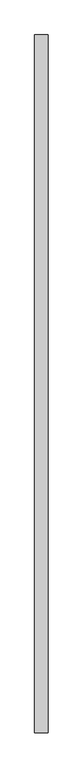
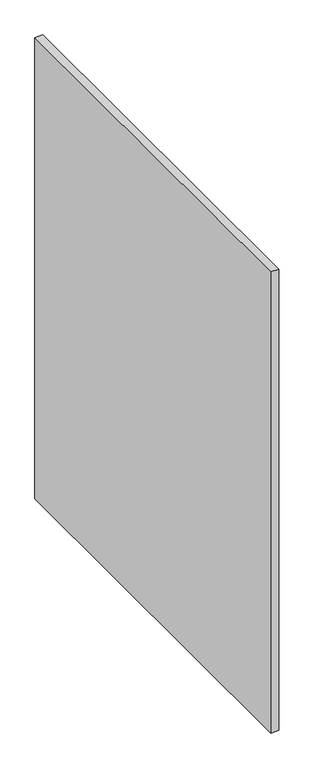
"""IFC4 building model written with IfcOpenShell, lengths in millimetres: furniture geometry, Divisoria_Lateral Fechada : Divisoria_Lateral Fechada_130x180."""

from ifc_helpers import new_model, si_unit, frame, origin, place, context, project, spatial, polyline, outline, extrude, source, transform, mapped, element, save


def furniture_a3a69743(model_context):
    return source(origin(), model_context, "Body", "SweptSolid", [
        extrude(outline(polyline([(59.7003264, 50.0), (59.7003264, -1499.1070406), (29.7003264, -1499.1070406), (29.7003264, 50.0), (59.7003264, 50.0)])), frame((0.0, 0.0, 50.0), z_axis=(0.0, 0.0, 1.0), x_axis=(1.0, 0.0, 0.0)), (0.0, 0.0, 1.0), 1850.0),
    ])


if __name__ == "__main__":
    model = new_model("IFC4")
    model_context = context("Model", 3, world=origin())
    ifc_project = project(units=[si_unit("LENGTHUNIT", "METRE", prefix="MILLI")], contexts=[model_context])
    site = spatial("IfcSite", under=ifc_project)
    building = spatial("IfcBuilding", under=site)
    placement = place(None, origin())
    furniture_shape = furniture_a3a69743(model_context)
    element("IfcFurniture", 1, ObjectType="Divisoria_Lateral Fechada : Divisoria_Lateral Fechada_130x180", at=placement, inside=building, context=model_context, shape_type="MappedRepresentation", body=[
        mapped(furniture_shape, transform((0.0, 0.0, 0.0), x_axis=(1.0, 0.0, 0.0), y_axis=(0.0, 1.0, 0.0), z_axis=(0.0, 0.0, 1.0))),
    ])
    save(model, "model.ifc")
